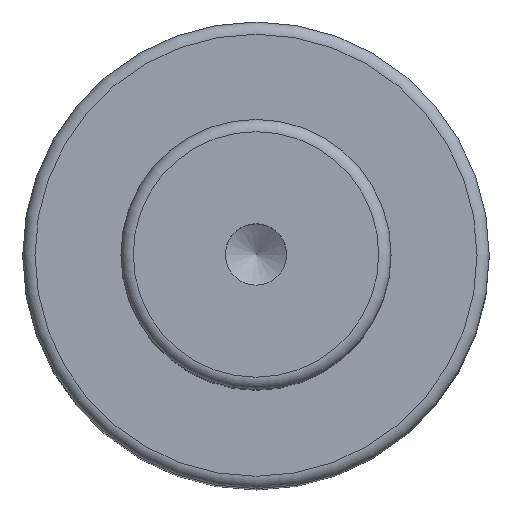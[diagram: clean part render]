
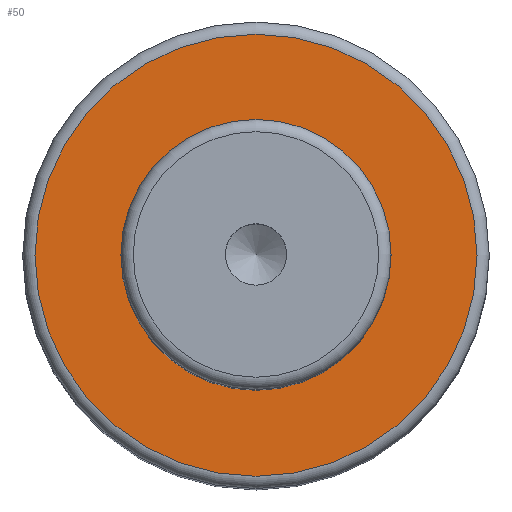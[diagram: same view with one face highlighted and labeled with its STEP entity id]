
A CAD part, top view. The second image highlights one B-rep face of the part: STEP entity #50.
In plain terms, the highlighted planar face has unit normal (0, 0, 1).
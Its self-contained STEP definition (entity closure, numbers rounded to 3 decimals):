
#40=PLANE('',#179);
#50=ADVANCED_FACE('',(#72,#73),#40,.F.);
#72=FACE_BOUND('',#96,.T.);
#73=FACE_BOUND('',#97,.T.);
#96=EDGE_LOOP('',(#118));
#97=EDGE_LOOP('',(#119));
#118=ORIENTED_EDGE('',*,*,#149,.F.);
#119=ORIENTED_EDGE('',*,*,#148,.T.);
#135=VERTEX_POINT('',#256);
#136=VERTEX_POINT('',#259);
#148=EDGE_CURVE('',#135,#135,#159,.T.);
#149=EDGE_CURVE('',#136,#136,#160,.T.);
#159=CIRCLE('',#176,11.);
#160=CIRCLE('',#178,18.);
#176=AXIS2_PLACEMENT_3D('',#255,#213,#214);
#178=AXIS2_PLACEMENT_3D('',#258,#217,#218);
#179=AXIS2_PLACEMENT_3D('',#260,#219,#220);
#213=DIRECTION('',(0.,0.,-1.));
#214=DIRECTION('',(-1.,0.,0.));
#217=DIRECTION('',(0.,0.,-1.));
#218=DIRECTION('',(-1.,0.,0.));
#219=DIRECTION('',(0.,0.,-1.));
#220=DIRECTION('',(-1.,0.,0.));
#255=CARTESIAN_POINT('',(0.,0.,67.));
#256=CARTESIAN_POINT('',(-11.,0.,67.));
#258=CARTESIAN_POINT('',(0.,0.,67.));
#259=CARTESIAN_POINT('',(-18.,0.,67.));
#260=CARTESIAN_POINT('',(11.,0.,67.));
